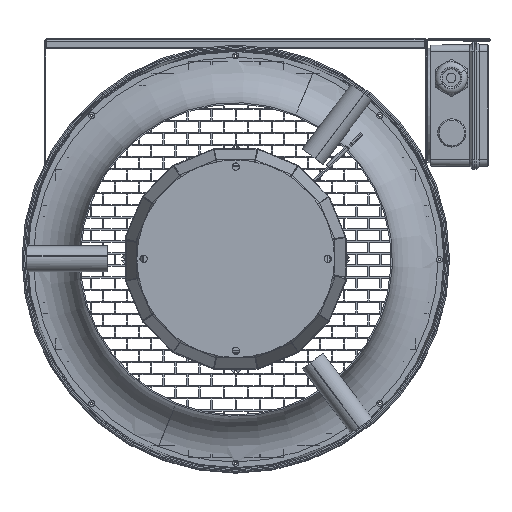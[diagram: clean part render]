
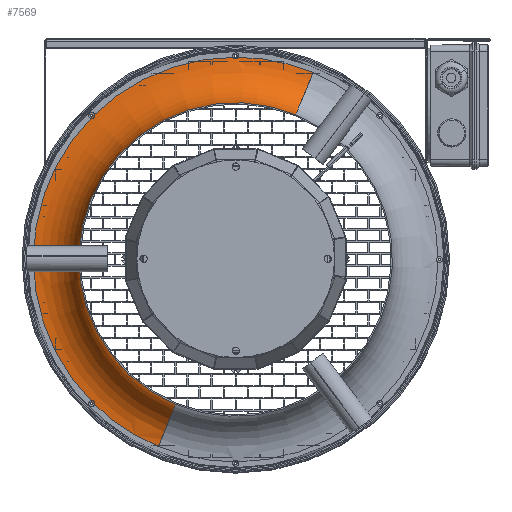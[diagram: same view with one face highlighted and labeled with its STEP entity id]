
A CAD part, top view. The second image highlights one B-rep face of the part: STEP entity #7569.
In plain terms, the highlighted toroidal (fillet/blend) face has major radius 151 mm and minor radius 34 mm.
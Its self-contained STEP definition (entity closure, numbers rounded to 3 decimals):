
#4126 = AXIS2_PLACEMENT_3D ( 'NONE', #66393, #66394, #66395 ) ;
#4128 = AXIS2_PLACEMENT_3D ( 'NONE', #66397, #66398, #66399 ) ;
#4130 = AXIS2_PLACEMENT_3D ( 'NONE', #66401, #66402, #66403 ) ;
#4133 = AXIS2_PLACEMENT_3D ( 'NONE', #66405, #66406, #66407 ) ;
#4135 = AXIS2_PLACEMENT_3D ( 'NONE', #66408, #66409, #66410 ) ;
#4137 = AXIS2_PLACEMENT_3D ( 'NONE', #66412, #66413, #66414 ) ;
#4139 = AXIS2_PLACEMENT_3D ( 'NONE', #66416, #66417, #66418 ) ;
#4141 = AXIS2_PLACEMENT_3D ( 'NONE', #66420, #66421, #66422 ) ;
#7569 = ADVANCED_FACE ( 'NONE', ( #16325 ), #16336, .F. ) ;
#16325 = FACE_OUTER_BOUND ( 'NONE', #79052, .T. ) ;
#16336 = TOROIDAL_SURFACE ( 'NONE', #17983, 151., 34. ) ;
#17983 = AXIS2_PLACEMENT_3D ( 'NONE', #44951, #44946, #44956 ) ;
#23338 = VERTEX_POINT ( 'NONE', #51261 ) ;
#23350 = VERTEX_POINT ( 'NONE', #51282 ) ;
#23358 = VERTEX_POINT ( 'NONE', #51292 ) ;
#23361 = VERTEX_POINT ( 'NONE', #51296 ) ;
#23363 = VERTEX_POINT ( 'NONE', #51290 ) ;
#23364 = VERTEX_POINT ( 'NONE', #51300 ) ;
#23366 = VERTEX_POINT ( 'NONE', #51294 ) ;
#23368 = VERTEX_POINT ( 'NONE', #51298 ) ;
#37485 = EDGE_CURVE ( 'NONE', #23338, #23350, #62756, .T. ) ;
#37487 = EDGE_CURVE ( 'NONE', #23338, #23358, #62760, .T. ) ;
#37489 = EDGE_CURVE ( 'NONE', #23358, #23361, #62747, .T. ) ;
#37491 = EDGE_CURVE ( 'NONE', #23361, #23363, #62752, .T. ) ;
#37493 = EDGE_CURVE ( 'NONE', #23363, #23364, #62757, .T. ) ;
#37495 = EDGE_CURVE ( 'NONE', #23364, #23366, #62761, .T. ) ;
#37498 = EDGE_CURVE ( 'NONE', #23366, #23368, #62765, .T. ) ;
#37500 = EDGE_CURVE ( 'NONE', #23350, #23368, #62763, .T. ) ;
#44946 = DIRECTION ( 'NONE',  ( 0., 0., 1. ) ) ;
#44951 = CARTESIAN_POINT ( 'NONE',  ( -0.395, 3.132, -140.35 ) ) ;
#44956 = DIRECTION ( 'NONE',  ( -0.383, -0.924, 0. ) ) ;
#51261 = CARTESIAN_POINT ( 'NONE',  ( 44.379, 111.226, -140.35 ) ) ;
#51282 = CARTESIAN_POINT ( 'NONE',  ( -45.169, -104.962, -140.35 ) ) ;
#51290 = CARTESIAN_POINT ( 'NONE',  ( -107.168, 109.905, -174.35 ) ) ;
#51292 = CARTESIAN_POINT ( 'NONE',  ( 57.39, 142.637, -174.35 ) ) ;
#51294 = CARTESIAN_POINT ( 'NONE',  ( -107.168, -103.641, -174.35 ) ) ;
#51296 = CARTESIAN_POINT ( 'NONE',  ( -0.395, 154.132, -174.35 ) ) ;
#51298 = CARTESIAN_POINT ( 'NONE',  ( -58.18, -136.374, -174.35 ) ) ;
#51300 = CARTESIAN_POINT ( 'NONE',  ( -151.395, 3.132, -174.35 ) ) ;
#62747 = CIRCLE ( 'NONE', #4130, 151. ) ;
#62752 = CIRCLE ( 'NONE', #4133, 151. ) ;
#62756 = CIRCLE ( 'NONE', #4126, 117. ) ;
#62757 = CIRCLE ( 'NONE', #4135, 151. ) ;
#62760 = CIRCLE ( 'NONE', #4128, 34. ) ;
#62761 = CIRCLE ( 'NONE', #4137, 151. ) ;
#62763 = CIRCLE ( 'NONE', #4141, 34. ) ;
#62765 = CIRCLE ( 'NONE', #4139, 151. ) ;
#66393 = CARTESIAN_POINT ( 'NONE',  ( -0.395, 3.132, -140.35 ) ) ;
#66394 = DIRECTION ( 'NONE',  ( 0., 0., 1. ) ) ;
#66395 = DIRECTION ( 'NONE',  ( -0.383, -0.924, 0. ) ) ;
#66397 = CARTESIAN_POINT ( 'NONE',  ( 57.39, 142.637, -140.35 ) ) ;
#66398 = DIRECTION ( 'NONE',  ( 0.924, -0.383, 0. ) ) ;
#66399 = DIRECTION ( 'NONE',  ( 0.383, 0.924, 0. ) ) ;
#66401 = CARTESIAN_POINT ( 'NONE',  ( -0.395, 3.132, -174.35 ) ) ;
#66402 = DIRECTION ( 'NONE',  ( 0., 0., 1. ) ) ;
#66403 = DIRECTION ( 'NONE',  ( -0.383, -0.924, 0. ) ) ;
#66405 = CARTESIAN_POINT ( 'NONE',  ( -0.395, 3.132, -174.35 ) ) ;
#66406 = DIRECTION ( 'NONE',  ( 0., 0., 1. ) ) ;
#66407 = DIRECTION ( 'NONE',  ( -0.383, -0.924, 0. ) ) ;
#66408 = CARTESIAN_POINT ( 'NONE',  ( -0.395, 3.132, -174.35 ) ) ;
#66409 = DIRECTION ( 'NONE',  ( 0., 0., 1. ) ) ;
#66410 = DIRECTION ( 'NONE',  ( -0.383, -0.924, 0. ) ) ;
#66412 = CARTESIAN_POINT ( 'NONE',  ( -0.395, 3.132, -174.35 ) ) ;
#66413 = DIRECTION ( 'NONE',  ( 0., 0., 1. ) ) ;
#66414 = DIRECTION ( 'NONE',  ( -0.383, -0.924, 0. ) ) ;
#66416 = CARTESIAN_POINT ( 'NONE',  ( -0.395, 3.132, -174.35 ) ) ;
#66417 = DIRECTION ( 'NONE',  ( 0., 0., 1. ) ) ;
#66418 = DIRECTION ( 'NONE',  ( -0.383, -0.924, 0. ) ) ;
#66420 = CARTESIAN_POINT ( 'NONE',  ( -58.18, -136.374, -140.35 ) ) ;
#66421 = DIRECTION ( 'NONE',  ( -0.924, 0.383, 0. ) ) ;
#66422 = DIRECTION ( 'NONE',  ( -0.383, -0.924, 0. ) ) ;
#79052 = EDGE_LOOP ( 'NONE', ( #83624, #83625, #83626, #83627, #83628, #83629, #83630, #83631 ) ) ;
#83624 = ORIENTED_EDGE ( 'NONE', *, *, #37485, .F. ) ;
#83625 = ORIENTED_EDGE ( 'NONE', *, *, #37487, .T. ) ;
#83626 = ORIENTED_EDGE ( 'NONE', *, *, #37489, .T. ) ;
#83627 = ORIENTED_EDGE ( 'NONE', *, *, #37491, .T. ) ;
#83628 = ORIENTED_EDGE ( 'NONE', *, *, #37493, .T. ) ;
#83629 = ORIENTED_EDGE ( 'NONE', *, *, #37495, .T. ) ;
#83630 = ORIENTED_EDGE ( 'NONE', *, *, #37498, .T. ) ;
#83631 = ORIENTED_EDGE ( 'NONE', *, *, #37500, .F. ) ;
